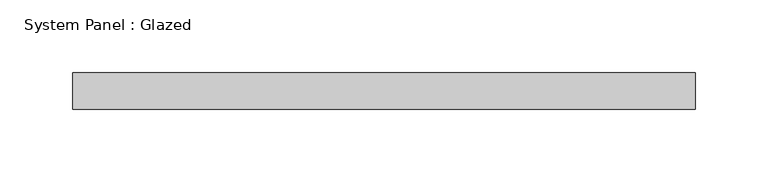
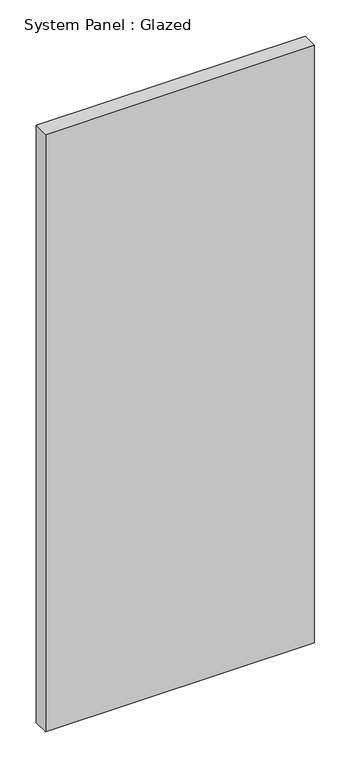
"""IFC4 building model written with IfcOpenShell, lengths in millimetres: plate geometry, System Panel : Glazed."""

from ifc_helpers import new_model, si_unit, origin, origin_with_axes, place, context, project, spatial, polyline, outline, extrude, source, transform, mapped, element, save


def system_panel_glazed_1582ece5(model_context):
    return source(origin(), model_context, "Body", "SweptSolid", [
        extrude(outline(polyline([(213.0371352, 24.5), (-213.0371352, 24.5), (-213.0371352, 49.5), (213.0371352, 49.5), (213.0371352, 24.5)])), origin_with_axes(), (0.0, 0.0, 1.0), 1000.0),
    ])


if __name__ == "__main__":
    model = new_model("IFC4")
    model_context = context("Model", 3, world=origin())
    ifc_project = project(units=[si_unit("LENGTHUNIT", "METRE", prefix="MILLI")], contexts=[model_context])
    site = spatial("IfcSite", under=ifc_project)
    building = spatial("IfcBuilding", under=site)
    placement = place(None, origin())
    system_panel_glazed_shape = system_panel_glazed_1582ece5(model_context)
    element("IfcPlate", 1, ObjectType="System Panel : Glazed", at=placement, inside=building, context=model_context, shape_type="MappedRepresentation", body=[
        mapped(system_panel_glazed_shape, transform((0.0, 0.0, 0.0), x_axis=(1.0, 0.0, 0.0), y_axis=(0.0, 1.0, 0.0), z_axis=(0.0, 0.0, 1.0))),
    ])
    save(model, "model.ifc")
